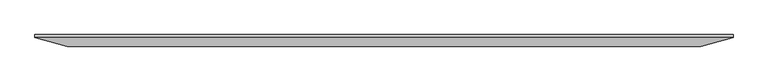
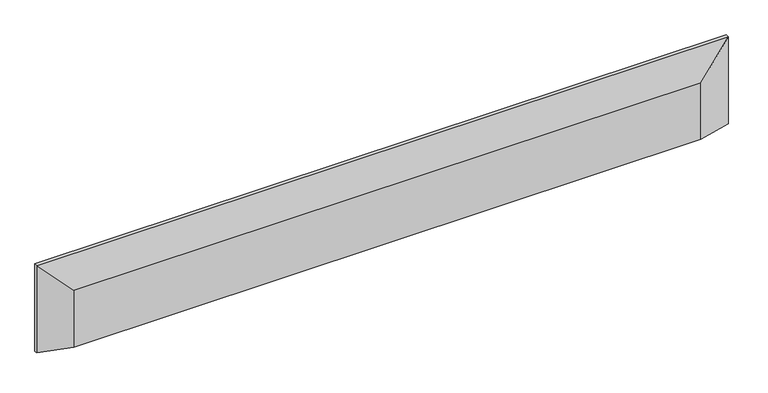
"""IFC4 building model written with IfcOpenShell, lengths in millimetres: proxy geometry, AERO^STANDARD CREDENZA_WALL HUNG SHELVES-NOTCHED SHELF."""

from ifc_helpers import new_model, si_unit, origin, place, context, project, spatial, faceted_brep, source, transform, mapped, element, save


def generic_models_aabe800b(model_context):
    return source(origin(), model_context, "Body", "Brep", [
        faceted_brep([(2286.0, 28.575, 0.0), (2286.0, 28.575, -304.8), (2286.0, 38.1, -304.8), (2286.0, 38.1, 0.0), (2179.3566482, 0.0, -304.8), (106.6433518, 0.0, -304.8), (0.0, 28.575, -304.8), (0.0, 38.1, -304.8), (2179.3566482, 0.0, -106.6433518), (0.0, 28.575, 0.0), (106.6433518, 0.0, -106.6433518), (0.0, 38.1, 0.0)], [[[0, 1, 2, 3]], [[2, 1, 4, 5, 6, 7]], [[0, 8, 4, 1]], [[9, 10, 8, 0]], [[6, 5, 10, 9]], [[6, 9, 11, 7]], [[9, 0, 3, 11]], [[4, 8, 10, 5]], [[3, 2, 7, 11]]]),
    ])


if __name__ == "__main__":
    model = new_model("IFC4")
    model_context = context("Model", 3, world=origin())
    ifc_project = project(units=[si_unit("LENGTHUNIT", "METRE", prefix="MILLI")], contexts=[model_context])
    site = spatial("IfcSite", under=ifc_project)
    building = spatial("IfcBuilding", under=site)
    placement = place(None, origin())
    generic_models_shape = generic_models_aabe800b(model_context)
    element("IfcBuildingElementProxy", 1, Name="AERO^STANDARD CREDENZA_WALL HUNG SHELVES-NOTCHED SHELF", ObjectType="AERO^STANDARD CREDENZA_WALL HUNG SHELVES-NOTCHED SHELF", at=placement, inside=building, context=model_context, shape_type="MappedRepresentation", body=[
        mapped(generic_models_shape, transform((0.0, 0.0, 0.0), x_axis=(1.0, 0.0, 0.0), y_axis=(0.0, 1.0, 0.0), z_axis=(0.0, 0.0, 1.0))),
    ])
    save(model, "model.ifc")
